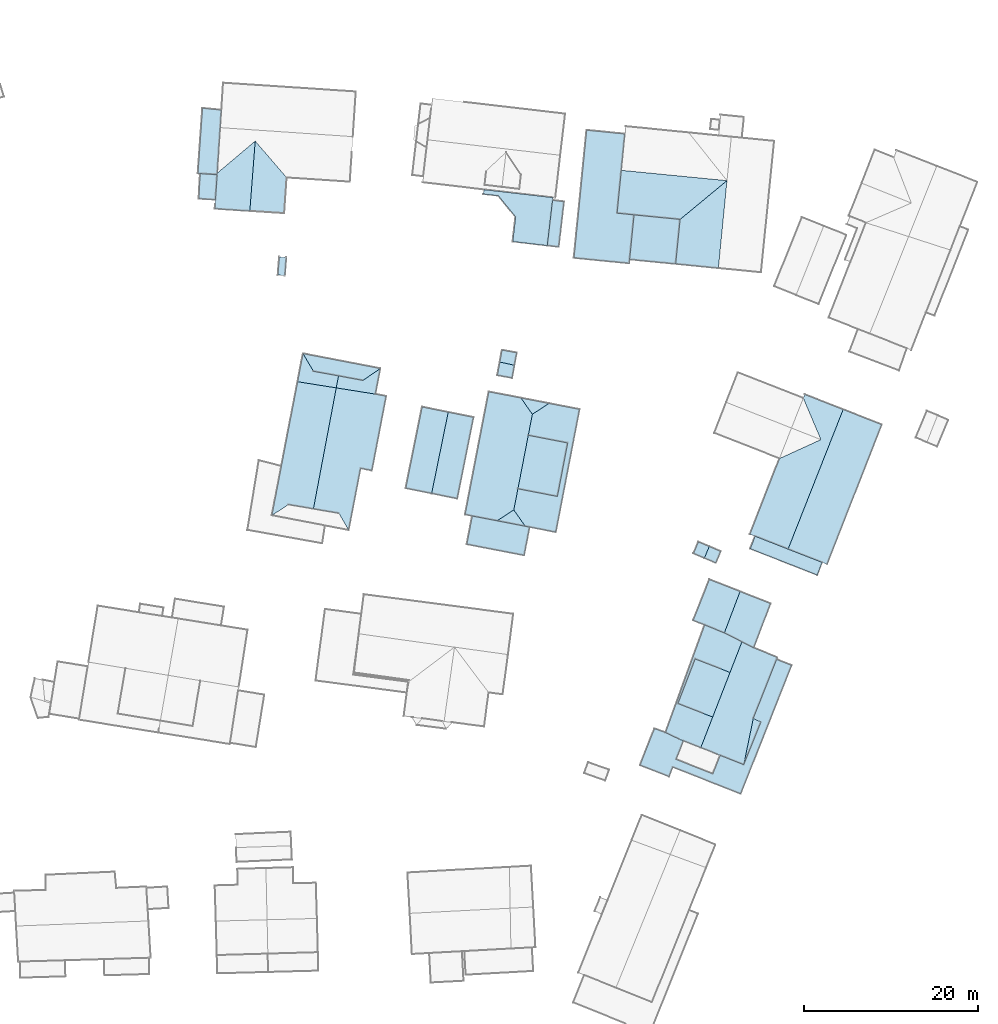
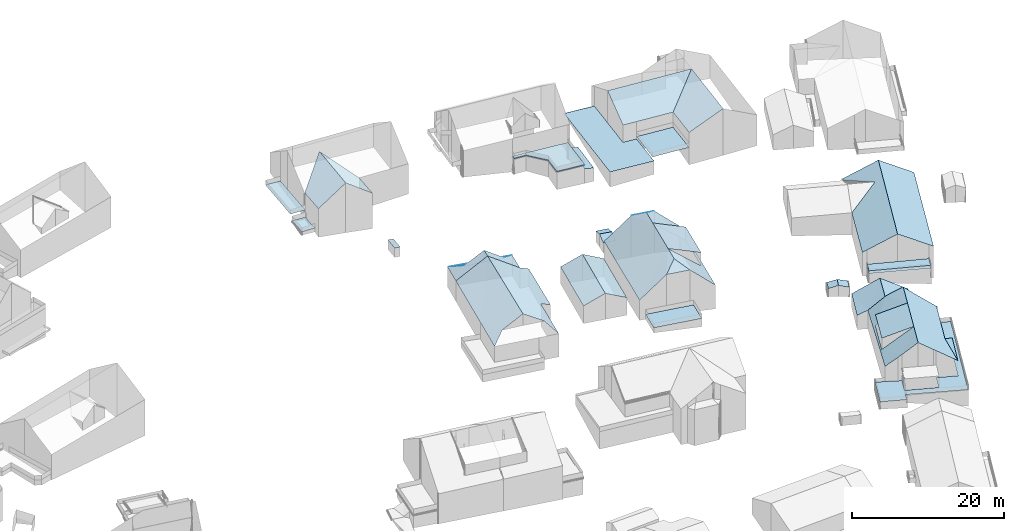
# Not in any storey, part 56 of 57: 77 roofs.
"""IFC2X3 building model written with IfcOpenShell, lengths in metres."""

from ifc_helpers import new_model, entity, si_unit, converted_unit, frame, origin, place, context, subcontext, project, spatial, face_set, surface_model, element, save


model = new_model("IFC2X3")

# Units and contexts
model_context = context("Model", 3, precision=1e-05, world=origin())
body_context = subcontext(model_context, "Body", "Model", "MODEL_VIEW")
ifc_project = project(units=[converted_unit("PLANEANGLEUNIT", "DEGREE", entity("IfcRatioMeasure", 0.0174532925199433), si_unit("PLANEANGLEUNIT", "RADIAN"), dimensions=[0, 0, 0, 0, 0, 0, 0]), si_unit("AREAUNIT", "SQUARE_METRE"), si_unit("LENGTHUNIT", "METRE")], contexts=[model_context])

# Site, building
site_placement = place(None, origin())
site = spatial("IfcSite", under=ifc_project, at=site_placement, Name="_site", CompositionType="ELEMENT")
building_1_placement = place(site_placement, origin())
building_1 = spatial("IfcBuilding", under=site, at=building_1_placement, Name="_building", CompositionType="ELEMENT")

# Roofs
roof_1_placement = place(building_1_placement, origin())
element("IfcRoof", 1, at=roof_1_placement, inside=building_1, Name="Roof", ShapeType="NOTDEFINED", context=body_context, shape_type="SurfaceModel", body=[
    surface_model("IfcFaceBasedSurfaceModel", [(244.204, 127.677, 112.12), (243.928, 126.153, 111.66), (245.612, 125.843, 111.66), (245.886, 127.308, 112.12)], [face_set([[[0, 1, 2, 3]]])]),
])
roof_2_placement = place(building_1_placement, origin())
element("IfcRoof", 2, at=roof_2_placement, inside=building_1, Name="Roof", ShapeType="NOTDEFINED", context=body_context, shape_type="SurfaceModel", body=[
    surface_model("IfcFaceBasedSurfaceModel", [(245.886, 127.308, 112.12), (246.15, 128.743, 111.66), (244.456, 129.053, 111.66), (244.204, 127.677, 112.12)], [face_set([[[0, 1, 2, 3]]])]),
])
roof_3_placement = place(building_1_placement, origin())
element("IfcRoof", 3, at=roof_3_placement, inside=building_1, Name="Roof", ShapeType="NOTDEFINED", context=body_context, shape_type="SurfaceModel", body=[
    surface_model("IfcFaceBasedSurfaceModel", [(244.204, 127.677, 112.12), (243.928, 126.153, 111.66), (245.612, 125.843, 111.66), (245.886, 127.308, 112.12)], [face_set([[[0, 1, 2, 3]]])]),
])
roof_4_placement = place(building_1_placement, origin())
element("IfcRoof", 4, at=roof_4_placement, inside=building_1, Name="Roof", ShapeType="NOTDEFINED", context=body_context, shape_type="SurfaceModel", body=[
    surface_model("IfcFaceBasedSurfaceModel", [(245.886, 127.308, 112.12), (246.15, 128.743, 111.66), (244.456, 129.053, 111.66), (244.204, 127.677, 112.12)], [face_set([[[0, 1, 2, 3]]])]),
])

# Building
building_2_placement = place(site_placement, origin())
building_2 = spatial("IfcBuilding", under=site, at=building_2_placement, Name="_building", CompositionType="ELEMENT")

# Roofs
roof_5_placement = place(building_2_placement, origin())
element("IfcRoof", 5, at=roof_5_placement, inside=building_2, Name="Roof", ShapeType="NOTDEFINED", context=body_context, shape_type="SurfaceModel", body=[
    surface_model("IfcFaceBasedSurfaceModel", [(246.281, 113.141, 117.86), (247.469, 119.276, 117.86), (247.936, 121.686, 117.86), (246.629, 123.558, 116.72), (242.943, 124.265, 113.45), (240.222, 110.18, 113.45), (243.898, 109.473, 116.72), (245.808, 110.72, 117.86)], [face_set([[[0, 1, 2, 3, 4, 5, 6, 7]]])]),
])
roof_6_placement = place(building_2_placement, origin())
element("IfcRoof", 6, at=roof_6_placement, inside=building_2, Name="Roof", ShapeType="NOTDEFINED", context=body_context, shape_type="SurfaceModel", body=[
    surface_model("IfcFaceBasedSurfaceModel", [(245.808, 110.72, 117.86), (247.115, 108.848, 116.72), (250.631, 108.165, 113.45), (253.353, 122.25, 113.45), (249.846, 122.932, 116.72), (247.936, 121.686, 117.86), (247.469, 119.276, 117.86), (251.992, 118.399, 114.013), (250.807, 112.263, 114.004), (246.281, 113.141, 117.86)], [face_set([[[0, 1, 2, 3, 4, 5, 6, 7, 8, 9]]])]),
])
roof_7_placement = place(building_2_placement, origin())
element("IfcRoof", 7, at=roof_7_placement, inside=building_2, Name="Roof", ShapeType="NOTDEFINED", context=body_context, shape_type="SurfaceModel", body=[
    surface_model("IfcFaceBasedSurfaceModel", [(246.281, 113.141, 117.86), (250.807, 112.263, 116.15), (251.992, 118.399, 116.15), (247.469, 119.276, 117.86)], [face_set([[[0, 1, 2, 3]]])]),
])
roof_8_placement = place(building_2_placement, origin())
element("IfcRoof", 8, at=roof_8_placement, inside=building_2, Name="Roof", ShapeType="NOTDEFINED", context=body_context, shape_type="SurfaceModel", body=[
    surface_model("IfcFaceBasedSurfaceModel", [(249.846, 122.932, 116.72), (246.629, 123.558, 116.72), (247.936, 121.686, 117.86)], [face_set([[[0, 1, 2]]])]),
])
roof_9_placement = place(building_2_placement, origin())
element("IfcRoof", 9, at=roof_9_placement, inside=building_2, Name="Roof", ShapeType="NOTDEFINED", context=body_context, shape_type="SurfaceModel", body=[
    surface_model("IfcFaceBasedSurfaceModel", [(245.808, 110.72, 117.86), (243.898, 109.473, 116.72), (247.115, 108.848, 116.72)], [face_set([[[0, 1, 2]]])]),
])
roof_10_placement = place(building_2_placement, origin())
element("IfcRoof", 10, at=roof_10_placement, inside=building_2, Name="Roof", ShapeType="NOTDEFINED", context=body_context, shape_type="SurfaceModel", body=[
    surface_model("IfcFaceBasedSurfaceModel", [(245.808, 110.72, 117.86), (247.115, 108.848, 116.72), (250.631, 108.165, 113.45), (253.353, 122.25, 113.45), (249.846, 122.932, 116.72), (247.936, 121.686, 117.86), (247.469, 119.276, 117.86), (251.992, 118.399, 114.013), (250.807, 112.263, 114.004), (246.281, 113.141, 117.86)], [face_set([[[0, 1, 2, 3, 4, 5, 6, 7, 8, 9]]])]),
])
roof_11_placement = place(building_2_placement, origin())
element("IfcRoof", 11, at=roof_11_placement, inside=building_2, Name="Roof", ShapeType="NOTDEFINED", context=body_context, shape_type="SurfaceModel", body=[
    surface_model("IfcFaceBasedSurfaceModel", [(246.281, 113.141, 117.86), (247.469, 119.276, 117.86), (247.936, 121.686, 117.86), (246.629, 123.558, 116.72), (242.943, 124.265, 113.45), (240.222, 110.18, 113.45), (243.898, 109.473, 116.72), (245.808, 110.72, 117.86)], [face_set([[[0, 1, 2, 3, 4, 5, 6, 7]]])]),
])
roof_12_placement = place(building_2_placement, origin())
element("IfcRoof", 12, at=roof_12_placement, inside=building_2, Name="Roof", ShapeType="NOTDEFINED", context=body_context, shape_type="SurfaceModel", body=[
    surface_model("IfcFaceBasedSurfaceModel", [(246.281, 113.141, 117.86), (250.807, 112.263, 116.15), (251.992, 118.399, 116.15), (247.469, 119.276, 117.86)], [face_set([[[0, 1, 2, 3]]])]),
])
roof_13_placement = place(building_2_placement, origin())
element("IfcRoof", 13, at=roof_13_placement, inside=building_2, Name="Roof", ShapeType="NOTDEFINED", context=body_context, shape_type="SurfaceModel", body=[
    surface_model("IfcFaceBasedSurfaceModel", [(249.846, 122.932, 116.72), (246.629, 123.558, 116.72), (247.936, 121.686, 117.86)], [face_set([[[0, 1, 2]]])]),
])
for number, where, name in (
    (14, (0.0, 0.0, 0.0), "Roof"),
    (15, (0.0, 0.0, 0.0), "Roof"),
):
    element("IfcRoof", number, at=place(building_2_placement, frame(where)), inside=building_2, Name=name, ShapeType="NOTDEFINED", context=body_context, shape_type="SurfaceModel", body=[
        surface_model("IfcFaceBasedSurfaceModel", [(241.049, 110.02, 110.99), (240.423, 106.773, 110.99), (246.997, 105.499, 110.99), (247.623, 108.746, 110.99)], [face_set([[[0, 1, 2, 3]]])]),
    ])
roof_14_placement = place(building_2_placement, origin())
element("IfcRoof", 16, at=roof_14_placement, inside=building_2, Name="Roof", ShapeType="NOTDEFINED", context=body_context, shape_type="SurfaceModel", body=[
    surface_model("IfcFaceBasedSurfaceModel", [(245.808, 110.72, 117.86), (243.898, 109.473, 116.72), (247.115, 108.848, 116.72)], [face_set([[[0, 1, 2]]])]),
])

# Building
building_3_placement = place(site_placement, origin())
building_3 = spatial("IfcBuilding", under=site, at=building_3_placement, Name="_building", CompositionType="ELEMENT")

# Roofs
roof_15_placement = place(building_3_placement, origin())
element("IfcRoof", 17, at=roof_15_placement, inside=building_3, Name="Roof", ShapeType="NOTDEFINED", context=body_context, shape_type="SurfaceModel", body=[
    surface_model("IfcFaceBasedSurfaceModel", [(249.65, 141.028, 112.65), (250.967, 140.877, 112.37), (251.569, 146.076, 112.37), (250.252, 146.227, 112.65)], [face_set([[[0, 1, 2, 3]]])]),
])
for number, where, name in (
    (18, (0.0, 0.0, 0.0), "Roof"),
    (19, (0.0, 0.0, 0.0), "Roof"),
):
    element("IfcRoof", number, at=place(building_3_placement, frame(where)), inside=building_3, Name=name, ShapeType="NOTDEFINED", context=body_context, shape_type="SurfaceModel", body=[
        surface_model("IfcFaceBasedSurfaceModel", [(250.252, 146.227, 113.18), (250.289, 146.537, 113.18), (242.386, 147.452, 113.18), (242.324, 146.943, 113.18), (244.05, 146.743, 113.18), (246.015, 144.325, 113.18), (245.688, 141.491, 113.18), (249.65, 141.028, 113.18)], [face_set([[[0, 1, 2, 3, 4, 5, 6, 7]]])]),
    ])
roof_16_placement = place(building_3_placement, origin())
element("IfcRoof", 20, at=roof_16_placement, inside=building_3, Name="Roof", ShapeType="NOTDEFINED", context=body_context, shape_type="SurfaceModel", body=[
    surface_model("IfcFaceBasedSurfaceModel", [(249.65, 141.028, 112.65), (250.967, 140.877, 112.37), (251.569, 146.076, 112.37), (250.252, 146.227, 112.65)], [face_set([[[0, 1, 2, 3]]])]),
])
for number, where, name in (
    (21, (0.0, 0.0, 0.0), "Roof"),
    (22, (0.0, 0.0, 0.0), "Roof"),
):
    element("IfcRoof", number, at=place(building_3_placement, frame(where)), inside=building_3, Name=name, ShapeType="NOTDEFINED", context=body_context, shape_type="SurfaceModel", body=[
        surface_model("IfcFaceBasedSurfaceModel", [(250.289, 146.537, 113.32), (242.386, 147.452, 113.32), (242.324, 146.943, 113.32), (244.05, 146.743, 113.32), (246.015, 144.325, 113.32), (245.688, 141.491, 113.32), (249.65, 141.028, 113.32), (250.252, 146.227, 113.32)], [face_set([[[0, 1, 2, 3, 4, 5, 6, 7]]])]),
    ])

# Building
building_4_placement = place(site_placement, origin())
building_4 = spatial("IfcBuilding", under=site, at=building_4_placement, Name="_building", CompositionType="ELEMENT")

# Roofs
roof_17_placement = place(building_4_placement, origin())
element("IfcRoof", 23, at=roof_17_placement, inside=building_4, Name="Roof", ShapeType="NOTDEFINED", context=body_context, shape_type="SurfaceModel", body=[
    surface_model("IfcFaceBasedSurfaceModel", [(225.446, 124.714, 116.94), (221.017, 125.419, 114.05), (219.152, 115.735, 113.905), (218.066, 110.088, 113.82), (219.956, 111.325, 115.07), (222.827, 110.835, 116.94)], [face_set([[[0, 1, 2, 3, 4, 5]]])]),
])
roof_18_placement = place(building_4_placement, origin())
element("IfcRoof", 24, at=roof_18_placement, inside=building_4, Name="Roof", ShapeType="NOTDEFINED", context=body_context, shape_type="SurfaceModel", body=[
    surface_model("IfcFaceBasedSurfaceModel", [(226.872, 108.391, 113.82), (228.239, 115.484, 113.82), (229.534, 115.233, 113.44), (231.174, 123.76, 113.44), (229.939, 123.999, 113.91), (225.446, 124.714, 116.94), (222.827, 110.835, 116.94), (225.757, 110.328, 115.07)], [face_set([[[0, 1, 2, 3, 4, 5, 6, 7]]])]),
])
roof_19_placement = place(building_4_placement, origin())
element("IfcRoof", 25, at=roof_19_placement, inside=building_4, Name="Roof", ShapeType="NOTDEFINED", context=body_context, shape_type="SurfaceModel", body=[
    surface_model("IfcFaceBasedSurfaceModel", [(225.446, 124.714, 116.94), (221.017, 125.419, 114.05), (219.152, 115.735, 113.905), (218.066, 110.088, 113.82), (219.956, 111.325, 115.07), (222.827, 110.835, 116.94)], [face_set([[[0, 1, 2, 3, 4, 5]]])]),
])
roof_20_placement = place(building_4_placement, origin())
element("IfcRoof", 26, at=roof_20_placement, inside=building_4, Name="Roof", ShapeType="NOTDEFINED", context=body_context, shape_type="SurfaceModel", body=[
    surface_model("IfcFaceBasedSurfaceModel", [(226.872, 108.391, 113.82), (228.239, 115.484, 113.82), (229.534, 115.233, 113.44), (231.174, 123.76, 113.44), (229.939, 123.999, 113.91), (225.446, 124.714, 116.94), (222.827, 110.835, 116.94), (225.757, 110.328, 115.07)], [face_set([[[0, 1, 2, 3, 4, 5, 6, 7]]])]),
])

# Building
building_5_placement = place(site_placement, origin())
building_5 = spatial("IfcBuilding", under=site, at=building_5_placement, Name="_building", CompositionType="ELEMENT")

# Roofs
roof_21_placement = place(building_5_placement, origin())
element("IfcRoof", 27, at=roof_21_placement, inside=building_5, Name="Roof", ShapeType="NOTDEFINED", context=body_context, shape_type="SurfaceModel", body=[
    surface_model("IfcFaceBasedSurfaceModel", [(222.836, 126.617, 115.06), (225.705, 126.089, 115.06), (228.505, 125.574, 115.06), (230.508, 126.938, 113.93), (221.633, 128.646, 114.1)], [face_set([[[0, 1, 2, 3, 4]]])]),
])
roof_22_placement = place(building_5_placement, origin())
element("IfcRoof", 28, at=roof_22_placement, inside=building_5, Name="Roof", ShapeType="NOTDEFINED", context=body_context, shape_type="SurfaceModel", body=[
    surface_model("IfcFaceBasedSurfaceModel", [(228.505, 125.574, 115.06), (225.705, 126.089, 116.94), (225.446, 124.714, 116.94), (229.939, 123.999, 113.91), (230.508, 126.938, 113.93)], [face_set([[[0, 1, 2, 3, 4]]])]),
])
roof_23_placement = place(building_5_placement, origin())
element("IfcRoof", 29, at=roof_23_placement, inside=building_5, Name="Roof", ShapeType="NOTDEFINED", context=body_context, shape_type="SurfaceModel", body=[
    surface_model("IfcFaceBasedSurfaceModel", [(222.836, 126.617, 115.06), (225.705, 126.089, 115.06), (228.505, 125.574, 115.06), (230.508, 126.938, 113.93), (221.633, 128.646, 114.1)], [face_set([[[0, 1, 2, 3, 4]]])]),
])
roof_24_placement = place(building_5_placement, origin())
element("IfcRoof", 30, at=roof_24_placement, inside=building_5, Name="Roof", ShapeType="NOTDEFINED", context=body_context, shape_type="SurfaceModel", body=[
    surface_model("IfcFaceBasedSurfaceModel", [(228.505, 125.574, 115.06), (225.705, 126.089, 116.94), (225.446, 124.714, 116.94), (229.939, 123.999, 113.91), (230.508, 126.938, 113.93)], [face_set([[[0, 1, 2, 3, 4]]])]),
])
for number, where, name in (
    (31, (0.0, 0.0, 0.0), "Roof"),
    (32, (0.0, 0.0, 0.0), "Roof"),
):
    element("IfcRoof", number, at=place(building_5_placement, frame(where)), inside=building_5, Name=name, ShapeType="NOTDEFINED", context=body_context, shape_type="SurfaceModel", body=[
        surface_model("IfcFaceBasedSurfaceModel", [(221.633, 128.646, 114.1), (221.017, 125.419, 114.05), (225.446, 124.714, 116.94), (225.705, 126.089, 116.94), (222.836, 126.617, 115.06)], [face_set([[[0, 1, 2, 3, 4]]])]),
    ])

# Building
building_6_placement = place(site_placement, origin())
building_6 = spatial("IfcBuilding", under=site, at=building_6_placement, Name="_building", CompositionType="ELEMENT")

# Roofs
roof_25_placement = place(building_6_placement, origin())
element("IfcRoof", 33, at=roof_25_placement, inside=building_6, Name="Roof", ShapeType="NOTDEFINED", context=body_context, shape_type="SurfaceModel", body=[
    surface_model("IfcFaceBasedSurfaceModel", [(270.607, 92.078, 113.35), (266.611, 93.622, 111.92), (264.63, 88.515, 111.92), (268.616, 86.961, 113.35)], [face_set([[[0, 1, 2, 3]]])]),
])
roof_26_placement = place(building_6_placement, origin())
element("IfcRoof", 34, at=roof_26_placement, inside=building_6, Name="Roof", ShapeType="NOTDEFINED", context=body_context, shape_type="SurfaceModel", body=[
    surface_model("IfcFaceBasedSurfaceModel", [(270.607, 92.078, 113.35), (268.616, 86.961, 113.35), (267.253, 83.451, 113.35), (269.157, 82.696, 112.03), (269.474, 82.568, 111.81), (272.181, 81.504, 109.92), (274.146, 86.392, 109.92), (273.276, 86.812, 109.86), (275.946, 93.574, 109.86), (276.031, 93.792, 109.86), (273.325, 94.906, 112.16), (271.97, 95.589, 113.35)], [face_set([[[0, 1, 2, 3, 4, 5, 6, 7, 8, 9, 10, 11]]])]),
])
roof_27_placement = place(building_6_placement, origin())
element("IfcRoof", 35, at=roof_27_placement, inside=building_6, Name="Roof", ShapeType="NOTDEFINED", context=body_context, shape_type="SurfaceModel", body=[
    surface_model("IfcFaceBasedSurfaceModel", [(264.775, 84.429, 107.48), (263.202, 85.186, 107.48), (261.942, 85.646, 107.48), (260.282, 81.443, 107.46), (263.614, 80.134, 107.46), (264.039, 81.224, 107.46), (271.832, 78.151, 107.4), (277.671, 92.893, 107.4), (275.946, 93.574, 107.4), (273.276, 86.812, 107.48), (274.146, 86.392, 107.48), (272.181, 81.504, 107.48), (269.474, 82.568, 107.48), (268.634, 80.447, 107.48), (264.42, 82.106, 107.48), (265.261, 84.238, 107.48)], [face_set([[[0, 1, 2, 3, 4, 5, 6, 7, 8, 9, 10, 11, 12, 13, 14, 15]]])]),
])
roof_28_placement = place(building_6_placement, origin())
element("IfcRoof", 36, at=roof_28_placement, inside=building_6, Name="Roof", ShapeType="NOTDEFINED", context=body_context, shape_type="SurfaceModel", body=[
    surface_model("IfcFaceBasedSurfaceModel", [(270.607, 92.078, 113.35), (268.616, 86.961, 113.35), (267.253, 83.451, 113.35), (269.157, 82.696, 112.03), (269.474, 82.568, 111.81), (272.181, 81.504, 109.92), (274.146, 86.392, 109.92), (273.276, 86.812, 109.86), (275.946, 93.574, 109.86), (276.031, 93.792, 109.86), (273.325, 94.906, 112.16), (271.97, 95.589, 113.35)], [face_set([[[0, 1, 2, 3, 4, 5, 6, 7, 8, 9, 10, 11]]])]),
])
roof_29_placement = place(building_6_placement, origin())
element("IfcRoof", 37, at=roof_29_placement, inside=building_6, Name="Roof", ShapeType="NOTDEFINED", context=body_context, shape_type="SurfaceModel", body=[
    surface_model("IfcFaceBasedSurfaceModel", [(264.775, 84.429, 107.48), (263.202, 85.186, 107.48), (261.942, 85.646, 107.48), (260.282, 81.443, 107.46), (263.614, 80.134, 107.46), (264.039, 81.224, 107.46), (271.832, 78.151, 107.4), (277.671, 92.893, 107.4), (275.946, 93.574, 107.4), (273.276, 86.812, 107.48), (274.146, 86.392, 107.48), (272.181, 81.504, 107.48), (269.474, 82.568, 107.48), (268.634, 80.447, 107.48), (264.42, 82.106, 107.48), (265.261, 84.238, 107.48)], [face_set([[[0, 1, 2, 3, 4, 5, 6, 7, 8, 9, 10, 11, 12, 13, 14, 15]]])]),
])
roof_30_placement = place(building_6_placement, origin())
element("IfcRoof", 38, at=roof_30_placement, inside=building_6, Name="Roof", ShapeType="NOTDEFINED", context=body_context, shape_type="SurfaceModel", body=[
    surface_model("IfcFaceBasedSurfaceModel", [(270.607, 92.078, 113.35), (266.611, 93.622, 111.92), (264.63, 88.515, 111.92), (268.616, 86.961, 113.35)], [face_set([[[0, 1, 2, 3]]])]),
])
for number, where, name in (
    (39, (0.0, 0.0, 0.0), "Roof"),
    (40, (0.0, 0.0, 0.0), "Roof"),
):
    element("IfcRoof", number, at=place(building_6_placement, frame(where)), inside=building_6, Name=name, ShapeType="NOTDEFINED", context=body_context, shape_type="SurfaceModel", body=[
        surface_model("IfcFaceBasedSurfaceModel", [(271.97, 95.589, 113.35), (269.953, 96.606, 112.01), (267.703, 97.529, 109.88), (263.202, 85.186, 109.89), (264.775, 84.429, 111.26), (265.261, 84.238, 111.67), (267.253, 83.451, 113.35), (268.616, 86.961, 113.35), (264.63, 88.515, 110.121), (266.611, 93.622, 110.16), (270.607, 92.078, 113.35)], [face_set([[[0, 1, 2, 3, 4, 5, 6, 7, 8, 9, 10]]])]),
    ])

# Building
building_7_placement = place(site_placement, origin())
building_7 = spatial("IfcBuilding", under=site, at=building_7_placement, Name="_building", CompositionType="ELEMENT")

# Roofs
roof_31_placement = place(building_7_placement, origin())
element("IfcRoof", 41, at=roof_31_placement, inside=building_7, Name="Roof", ShapeType="NOTDEFINED", context=body_context, shape_type="SurfaceModel", body=[
    surface_model("IfcFaceBasedSurfaceModel", [(271.755, 101.357, 111.33), (268.245, 102.739, 109.21), (266.374, 98.041, 109.21), (267.703, 97.529, 109.88), (269.953, 96.606, 111.33)], [face_set([[[0, 1, 2, 3, 4]]])]),
])
roof_32_placement = place(building_7_placement, origin())
element("IfcRoof", 42, at=roof_32_placement, inside=building_7, Name="Roof", ShapeType="NOTDEFINED", context=body_context, shape_type="SurfaceModel", body=[
    surface_model("IfcFaceBasedSurfaceModel", [(269.953, 96.606, 111.33), (271.97, 95.589, 110.062), (273.325, 94.906, 109.21), (275.255, 99.974, 109.21), (271.755, 101.357, 111.33)], [face_set([[[0, 1, 2, 3, 4]]])]),
])
roof_33_placement = place(building_7_placement, origin())
element("IfcRoof", 43, at=roof_33_placement, inside=building_7, Name="Roof", ShapeType="NOTDEFINED", context=body_context, shape_type="SurfaceModel", body=[
    surface_model("IfcFaceBasedSurfaceModel", [(271.755, 101.357, 111.33), (268.245, 102.739, 109.21), (266.374, 98.041, 109.21), (267.703, 97.529, 109.88), (269.953, 96.606, 111.33)], [face_set([[[0, 1, 2, 3, 4]]])]),
])
roof_34_placement = place(building_7_placement, origin())
element("IfcRoof", 44, at=roof_34_placement, inside=building_7, Name="Roof", ShapeType="NOTDEFINED", context=body_context, shape_type="SurfaceModel", body=[
    surface_model("IfcFaceBasedSurfaceModel", [(269.953, 96.606, 111.33), (271.97, 95.589, 110.062), (273.325, 94.906, 109.21), (275.255, 99.974, 109.21), (271.755, 101.357, 111.33)], [face_set([[[0, 1, 2, 3, 4]]])]),
])

# Building
building_8_placement = place(site_placement, origin())
building_8 = spatial("IfcBuilding", under=site, at=building_8_placement, Name="_building", CompositionType="ELEMENT")

# Roofs
for number, where, name in (
    (45, (0.0, 0.0, 0.0), "Roof"),
    (46, (0.0, 0.0, 0.0), "Roof"),
):
    element("IfcRoof", number, at=place(building_8_placement, frame(where)), inside=building_8, Name=name, ShapeType="NOTDEFINED", context=body_context, shape_type="SurfaceModel", body=[
        surface_model("IfcFaceBasedSurfaceModel", [(218.752, 137.659, 112.71), (219.561, 137.59, 112.63), (219.73, 139.678, 112.62), (218.92, 139.736, 112.71)], [face_set([[[0, 1, 2, 3]]])]),
    ])

# Building
building_9_placement = place(site_placement, origin())
building_9 = spatial("IfcBuilding", under=site, at=building_9_placement, Name="_building", CompositionType="ELEMENT")

# Roofs
roof_35_placement = place(building_9_placement, origin())
element("IfcRoof", 47, at=roof_35_placement, inside=building_9, Name="Roof", ShapeType="NOTDEFINED", context=body_context, shape_type="SurfaceModel", body=[
    surface_model("IfcFaceBasedSurfaceModel", [(236.386, 112.601, 114.42), (239.324, 112.012, 113.07), (241.194, 121.334, 113.07), (238.286, 121.923, 114.42)], [face_set([[[0, 1, 2, 3]]])]),
])
roof_36_placement = place(building_9_placement, origin())
element("IfcRoof", 48, at=roof_36_placement, inside=building_9, Name="Roof", ShapeType="NOTDEFINED", context=body_context, shape_type="SurfaceModel", body=[
    surface_model("IfcFaceBasedSurfaceModel", [(238.286, 121.923, 114.42), (235.298, 122.523, 113.07), (233.419, 113.201, 113.07), (236.386, 112.601, 114.42)], [face_set([[[0, 1, 2, 3]]])]),
])
roof_37_placement = place(building_9_placement, origin())
element("IfcRoof", 49, at=roof_37_placement, inside=building_9, Name="Roof", ShapeType="NOTDEFINED", context=body_context, shape_type="SurfaceModel", body=[
    surface_model("IfcFaceBasedSurfaceModel", [(236.386, 112.601, 114.42), (239.324, 112.012, 113.07), (241.194, 121.334, 113.07), (238.286, 121.923, 114.42)], [face_set([[[0, 1, 2, 3]]])]),
])
roof_38_placement = place(building_9_placement, origin())
element("IfcRoof", 50, at=roof_38_placement, inside=building_9, Name="Roof", ShapeType="NOTDEFINED", context=body_context, shape_type="SurfaceModel", body=[
    surface_model("IfcFaceBasedSurfaceModel", [(238.286, 121.923, 114.42), (235.298, 122.523, 113.07), (233.419, 113.201, 113.07), (236.386, 112.601, 114.42)], [face_set([[[0, 1, 2, 3]]])]),
])

# Building
building_10_placement = place(site_placement, origin())
building_10 = spatial("IfcBuilding", under=site, at=building_10_placement, Name="_building", CompositionType="ELEMENT")

# Roofs
roof_39_placement = place(building_10_placement, origin())
element("IfcRoof", 51, at=roof_39_placement, inside=building_10, Name="Roof", ShapeType="NOTDEFINED", context=body_context, shape_type="SurfaceModel", body=[
    surface_model("IfcFaceBasedSurfaceModel", [(215.531, 144.989, 119.89), (219.488, 144.736, 116.98), (219.764, 148.822, 116.92), (216.15, 153.02, 119.89)], [face_set([[[0, 1, 2, 3]]])]),
])
for number, where, name in (
    (52, (0.0, 0.0, 0.0), "Roof"),
    (53, (0.0, 0.0, 0.0), "Roof"),
):
    element("IfcRoof", number, at=place(building_10_placement, frame(where)), inside=building_10, Name=name, ShapeType="NOTDEFINED", context=body_context, shape_type="SurfaceModel", body=[
        surface_model("IfcFaceBasedSurfaceModel", [(211.801, 149.349, 116.92), (211.789, 149.179, 116.922), (211.525, 145.253, 116.98), (215.531, 144.989, 119.89), (216.15, 153.02, 119.89)], [face_set([[[0, 1, 2, 3, 4]]])]),
    ])
roof_40_placement = place(building_10_placement, origin())
element("IfcRoof", 54, at=roof_40_placement, inside=building_10, Name="Roof", ShapeType="NOTDEFINED", context=body_context, shape_type="SurfaceModel", body=[
    surface_model("IfcFaceBasedSurfaceModel", [(209.838, 149.285, 113.19), (209.681, 146.397, 113.19), (211.599, 146.292, 113.19), (211.787, 149.159, 113.19)], [face_set([[[0, 1, 2, 3]]])]),
])
roof_41_placement = place(building_10_placement, origin())
element("IfcRoof", 55, at=roof_41_placement, inside=building_10, Name="Roof", ShapeType="NOTDEFINED", context=body_context, shape_type="SurfaceModel", body=[
    surface_model("IfcFaceBasedSurfaceModel", [(211.789, 149.179, 114.32), (211.801, 149.349, 114.32), (212.143, 154.564, 114.32), (212.278, 156.582, 114.32), (210.104, 156.793, 114.32), (209.578, 149.301, 114.32)], [face_set([[[0, 1, 2, 3, 4, 5]]])]),
])
roof_42_placement = place(building_10_placement, origin())
element("IfcRoof", 56, at=roof_42_placement, inside=building_10, Name="Roof", ShapeType="NOTDEFINED", context=body_context, shape_type="SurfaceModel", body=[
    surface_model("IfcFaceBasedSurfaceModel", [(209.838, 149.285, 113.19), (209.681, 146.397, 113.19), (211.599, 146.292, 113.19), (211.787, 149.159, 113.19)], [face_set([[[0, 1, 2, 3]]])]),
])
roof_43_placement = place(building_10_placement, origin())
element("IfcRoof", 57, at=roof_43_placement, inside=building_10, Name="Roof", ShapeType="NOTDEFINED", context=body_context, shape_type="SurfaceModel", body=[
    surface_model("IfcFaceBasedSurfaceModel", [(211.789, 149.179, 114.32), (211.801, 149.349, 114.32), (212.143, 154.564, 114.32), (212.278, 156.582, 114.32), (210.104, 156.793, 114.32), (209.578, 149.301, 114.32)], [face_set([[[0, 1, 2, 3, 4, 5]]])]),
])

# Building
building_11_placement = place(site_placement, origin())
building_11 = spatial("IfcBuilding", under=site, at=building_11_placement, Name="_building", CompositionType="ELEMENT")

# Roofs
roof_44_placement = place(building_11_placement, origin())
element("IfcRoof", 58, at=roof_44_placement, inside=building_11, Name="Roof", ShapeType="NOTDEFINED", context=body_context, shape_type="SurfaceModel", body=[
    surface_model("IfcFaceBasedSurfaceModel", [(277.263, 106.222, 113.54), (281.169, 104.699, 111.38), (281.734, 104.475, 111.07), (288.003, 120.498, 111.07), (283.581, 122.233, 113.54)], [face_set([[[0, 1, 2, 3, 4]]])]),
])
roof_45_placement = place(building_11_placement, origin())
element("IfcRoof", 59, at=roof_45_placement, inside=building_11, Name="Roof", ShapeType="NOTDEFINED", context=body_context, shape_type="SurfaceModel", body=[
    surface_model("IfcFaceBasedSurfaceModel", [(277.263, 106.222, 109.13), (273.485, 107.7, 109.11), (272.921, 106.262, 109.11), (280.605, 103.251, 109.15), (281.169, 104.699, 109.15)], [face_set([[[0, 1, 2, 3, 4]]])]),
])
roof_46_placement = place(building_11_placement, origin())
element("IfcRoof", 60, at=roof_46_placement, inside=building_11, Name="Roof", ShapeType="NOTDEFINED", context=body_context, shape_type="SurfaceModel", body=[
    surface_model("IfcFaceBasedSurfaceModel", [(277.263, 106.222, 113.54), (281.169, 104.699, 111.38), (281.734, 104.475, 111.07), (288.003, 120.498, 111.07), (283.581, 122.233, 113.54)], [face_set([[[0, 1, 2, 3, 4]]])]),
])
roof_47_placement = place(building_11_placement, origin())
element("IfcRoof", 61, at=roof_47_placement, inside=building_11, Name="Roof", ShapeType="NOTDEFINED", context=body_context, shape_type="SurfaceModel", body=[
    surface_model("IfcFaceBasedSurfaceModel", [(283.581, 122.233, 113.54), (279.169, 123.957, 111.07), (279.009, 123.541, 111.07), (281.029, 118.78, 112.96), (276.275, 116.611, 111.02), (272.89, 107.934, 111.07), (273.485, 107.7, 111.41), (277.263, 106.222, 113.54)], [face_set([[[0, 1, 2, 3, 4, 5, 6, 7]]])]),
])
roof_48_placement = place(building_11_placement, origin())
element("IfcRoof", 62, at=roof_48_placement, inside=building_11, Name="Roof", ShapeType="NOTDEFINED", context=body_context, shape_type="SurfaceModel", body=[
    surface_model("IfcFaceBasedSurfaceModel", [(277.263, 106.222, 109.13), (273.485, 107.7, 109.11), (272.921, 106.262, 109.11), (280.605, 103.251, 109.15), (281.169, 104.699, 109.15)], [face_set([[[0, 1, 2, 3, 4]]])]),
])
for number, where, name in (
    (63, (0.0, 0.0, 0.0), "Roof"),
    (64, (0.0, 0.0, 0.0), "Roof"),
):
    element("IfcRoof", number, at=place(building_11_placement, frame(where)), inside=building_11, Name=name, ShapeType="NOTDEFINED", context=body_context, shape_type="SurfaceModel", body=[
        surface_model("IfcFaceBasedSurfaceModel", [(281.169, 104.699, 108.67), (277.263, 106.222, 108.67), (273.485, 107.7, 108.67), (272.921, 106.262, 108.67), (280.605, 103.251, 108.67)], [face_set([[[0, 1, 2, 3, 4]]])]),
    ])
roof_49_placement = place(building_11_placement, origin())
element("IfcRoof", 65, at=roof_49_placement, inside=building_11, Name="Roof", ShapeType="NOTDEFINED", context=body_context, shape_type="SurfaceModel", body=[
    surface_model("IfcFaceBasedSurfaceModel", [(283.581, 122.233, 113.54), (279.169, 123.957, 111.07), (279.009, 123.541, 111.07), (281.029, 118.78, 112.96), (276.275, 116.611, 111.02), (272.89, 107.934, 111.07), (273.485, 107.7, 111.41), (277.263, 106.222, 113.54)], [face_set([[[0, 1, 2, 3, 4, 5, 6, 7]]])]),
])

# Building
building_12_placement = place(site_placement, origin())
building_12 = spatial("IfcBuilding", under=site, at=building_12_placement, Name="_building", CompositionType="ELEMENT")

# Roofs
roof_50_placement = place(building_12_placement, origin())
element("IfcRoof", 66, at=roof_50_placement, inside=building_12, Name="Roof", ShapeType="NOTDEFINED", context=body_context, shape_type="SurfaceModel", body=[
    surface_model("IfcFaceBasedSurfaceModel", [(258.136, 149.665, 117.01), (257.652, 144.754, 114.59), (259.598, 144.558, 114.59), (264.879, 144.034, 114.59), (270.257, 148.481, 117.01)], [face_set([[[0, 1, 2, 3, 4]]])]),
])
roof_51_placement = place(building_12_placement, origin())
element("IfcRoof", 67, at=roof_51_placement, inside=building_12, Name="Roof", ShapeType="NOTDEFINED", context=body_context, shape_type="SurfaceModel", body=[
    surface_model("IfcFaceBasedSurfaceModel", [(270.257, 148.481, 117.01), (264.879, 144.034, 114.59), (264.369, 138.922, 114.59), (269.271, 138.438, 117.01)], [face_set([[[0, 1, 2, 3]]])]),
])
roof_52_placement = place(building_12_placement, origin())
element("IfcRoof", 68, at=roof_52_placement, inside=building_12, Name="Roof", ShapeType="NOTDEFINED", context=body_context, shape_type="SurfaceModel", body=[
    surface_model("IfcFaceBasedSurfaceModel", [(259.598, 144.558, 111.83), (257.652, 144.754, 111.83), (258.136, 149.665, 111.846), (258.545, 153.838, 111.86), (254.162, 154.271, 111.93), (252.709, 139.616, 111.89), (259.048, 138.987, 111.83)], [face_set([[[0, 1, 2, 3, 4, 5, 6]]])]),
])
roof_53_placement = place(building_12_placement, origin())
element("IfcRoof", 69, at=roof_53_placement, inside=building_12, Name="Roof", ShapeType="NOTDEFINED", context=body_context, shape_type="SurfaceModel", body=[
    surface_model("IfcFaceBasedSurfaceModel", [(258.136, 149.665, 117.01), (257.652, 144.754, 114.59), (259.598, 144.558, 114.59), (264.879, 144.034, 114.59), (270.257, 148.481, 117.01)], [face_set([[[0, 1, 2, 3, 4]]])]),
])
roof_54_placement = place(building_12_placement, origin())
element("IfcRoof", 70, at=roof_54_placement, inside=building_12, Name="Roof", ShapeType="NOTDEFINED", context=body_context, shape_type="SurfaceModel", body=[
    surface_model("IfcFaceBasedSurfaceModel", [(270.257, 148.481, 117.01), (264.879, 144.034, 114.59), (264.369, 138.922, 114.59), (269.271, 138.438, 117.01)], [face_set([[[0, 1, 2, 3]]])]),
])
for number, where, name in (
    (71, (0.0, 0.0, 0.0), "Roof"),
    (72, (0.0, 0.0, 0.0), "Roof"),
):
    element("IfcRoof", number, at=place(building_12_placement, frame(where)), inside=building_12, Name=name, ShapeType="NOTDEFINED", context=body_context, shape_type="SurfaceModel", body=[
        surface_model("IfcFaceBasedSurfaceModel", [(264.369, 138.922, 112.19), (264.879, 144.034, 112.19), (259.598, 144.558, 112.19), (259.088, 139.436, 112.19)], [face_set([[[0, 1, 2, 3]]])]),
    ])
roof_55_placement = place(building_12_placement, origin())
element("IfcRoof", 73, at=roof_55_placement, inside=building_12, Name="Roof", ShapeType="NOTDEFINED", context=body_context, shape_type="SurfaceModel", body=[
    surface_model("IfcFaceBasedSurfaceModel", [(259.598, 144.558, 111.83), (257.652, 144.754, 111.83), (258.136, 149.665, 111.846), (258.545, 153.838, 111.86), (254.162, 154.271, 111.93), (252.709, 139.616, 111.89), (259.048, 138.987, 111.83)], [face_set([[[0, 1, 2, 3, 4, 5, 6]]])]),
])

# Building
building_13_placement = place(site_placement, origin())
building_13 = spatial("IfcBuilding", under=site, at=building_13_placement, Name="_building", CompositionType="ELEMENT")

# Roofs
roof_56_placement = place(building_13_placement, origin())
element("IfcRoof", 74, at=roof_56_placement, inside=building_13, Name="Roof", ShapeType="NOTDEFINED", context=body_context, shape_type="SurfaceModel", body=[
    surface_model("IfcFaceBasedSurfaceModel", [(267.662, 105.195, 109.23), (268.98, 104.634, 108.85), (269.542, 105.961, 108.85), (268.224, 106.523, 109.23)], [face_set([[[0, 1, 2, 3]]])]),
])
roof_57_placement = place(building_13_placement, origin())
element("IfcRoof", 75, at=roof_57_placement, inside=building_13, Name="Roof", ShapeType="NOTDEFINED", context=body_context, shape_type="SurfaceModel", body=[
    surface_model("IfcFaceBasedSurfaceModel", [(268.224, 106.523, 109.23), (266.976, 107.052, 108.85), (266.414, 105.724, 108.85), (267.662, 105.195, 109.23)], [face_set([[[0, 1, 2, 3]]])]),
])
roof_58_placement = place(building_13_placement, origin())
element("IfcRoof", 76, at=roof_58_placement, inside=building_13, Name="Roof", ShapeType="NOTDEFINED", context=body_context, shape_type="SurfaceModel", body=[
    surface_model("IfcFaceBasedSurfaceModel", [(267.662, 105.195, 109.23), (268.98, 104.634, 108.85), (269.542, 105.961, 108.85), (268.224, 106.523, 109.23)], [face_set([[[0, 1, 2, 3]]])]),
])
roof_59_placement = place(building_13_placement, origin())
element("IfcRoof", 77, at=roof_59_placement, inside=building_13, Name="Roof", ShapeType="NOTDEFINED", context=body_context, shape_type="SurfaceModel", body=[
    surface_model("IfcFaceBasedSurfaceModel", [(268.224, 106.523, 109.23), (266.976, 107.052, 108.85), (266.414, 105.724, 108.85), (267.662, 105.195, 109.23)], [face_set([[[0, 1, 2, 3]]])]),
])

save(model, "model.ifc")
